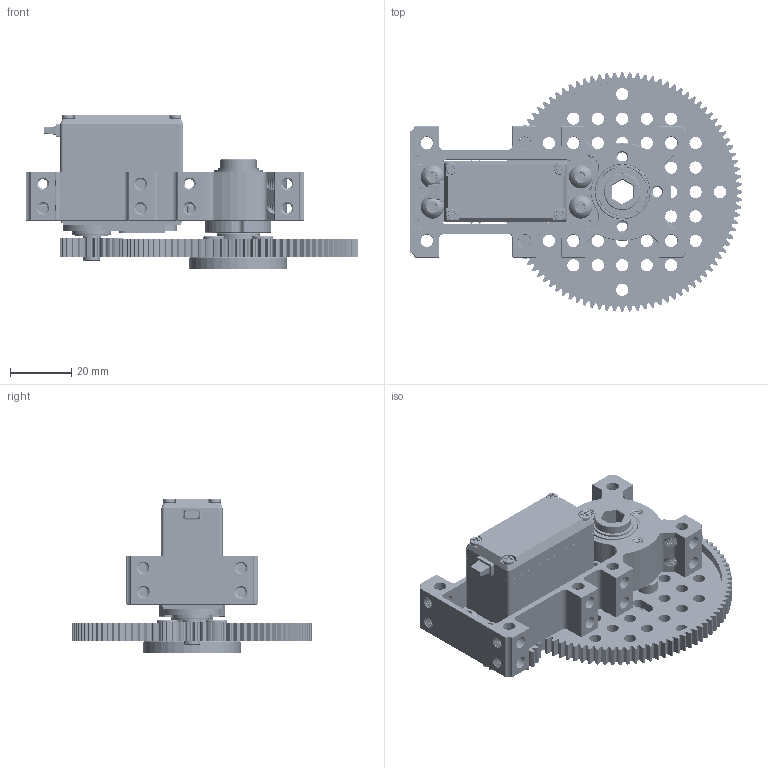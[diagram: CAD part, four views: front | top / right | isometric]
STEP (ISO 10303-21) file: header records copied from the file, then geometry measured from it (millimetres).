
FILE_DESCRIPTION (( 'STEP AP203' ), '1' );
FILE_NAME ('3215-0001-0004 assembly.STEP', '2022-03-21T19:34:30', ( '' ), ( '' ), 'SwSTEP 2.0', 'SolidWorks 2016', '' );
FILE_SCHEMA (( 'CONFIG_CONTROL_DESIGN' ));
Length unit declared in the file: millimetre
Products named in the file (17): 2000-0025-0002 fourth (final) stage gear; Component20; 1600-0418-0012; 2110-0012-0001 Shim; 3215 Series Sub-Assembly; 2802-0004-0008_92095A480; 1803-0043-0001; 2800-0004-0007_90128A207; 2305-0025-0024_Gear Blank; 2110-0012-0001 Snap-Ring REV1; m3x0.5 cap head screw 6mm length_91290A111; 2302-0014-0096; 2000-0025-0502; 2000-0025-0002; Component19; 2110-0012-0001 Shaft REV1; 3215-0001-0004 assembly
Assembly tree (23 placements, depth 4):
  3215-0001-0004 assembly
    3215 Series Sub-Assembly
      1803-0043-0001
      2000-0025-0502
        2000-0025-0002 fourth (final) stage gear
        2000-0025-0002
        Component19
        Component20
      2110-0012-0001 Shaft REV1
      1600-0418-0012  x2
      2802-0004-0008_92095A480  x4
      2800-0004-0007_90128A207  x4
      m3x0.5 cap head screw 6mm length_91290A111
      2110-0012-0001 Snap-Ring REV1
      2110-0012-0001 Shim
    2302-0014-0096
    2305-0025-0024_Gear Blank
Bounding box: 108.7 x 78.4 x 50.7 mm (x, y, z)
Volume: 72490.7 mm3; surface area: 50625.8 mm2
Topology: 25 solids, 29 shells, 7977 faces, 22429 edges, 14766 vertices
Faces by surface type: cylinder 3262, plane 2140, bspline 1980, cone 508, torus 79, sphere 8
Entity records: 891261 total; most frequent: CARTESIAN_POINT 718404, ORIENTED_EDGE 42682, DIRECTION 26615, EDGE_CURVE 21341, VERTEX_POINT 14107, VECTOR 9185, LINE 9185, AXIS2_PLACEMENT_3D 8715
